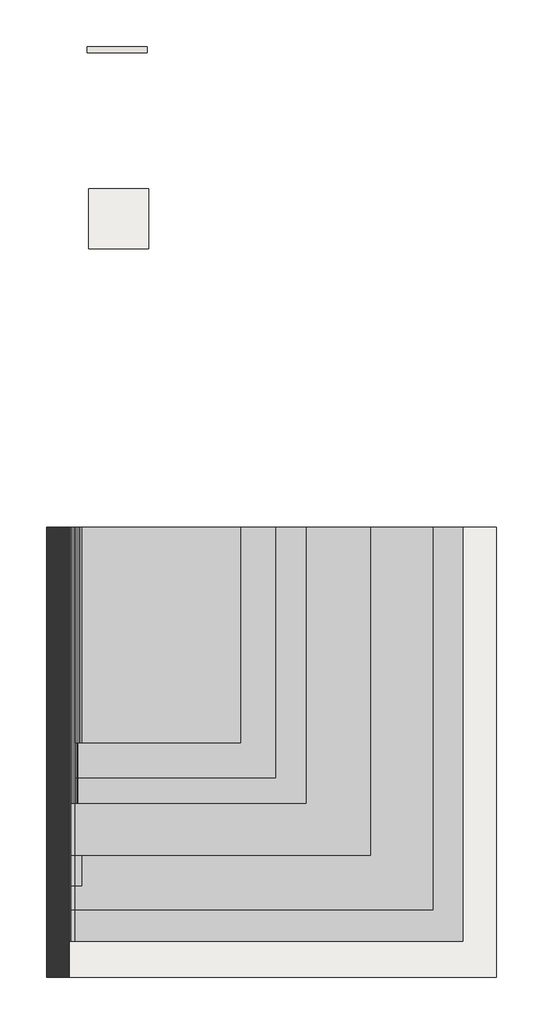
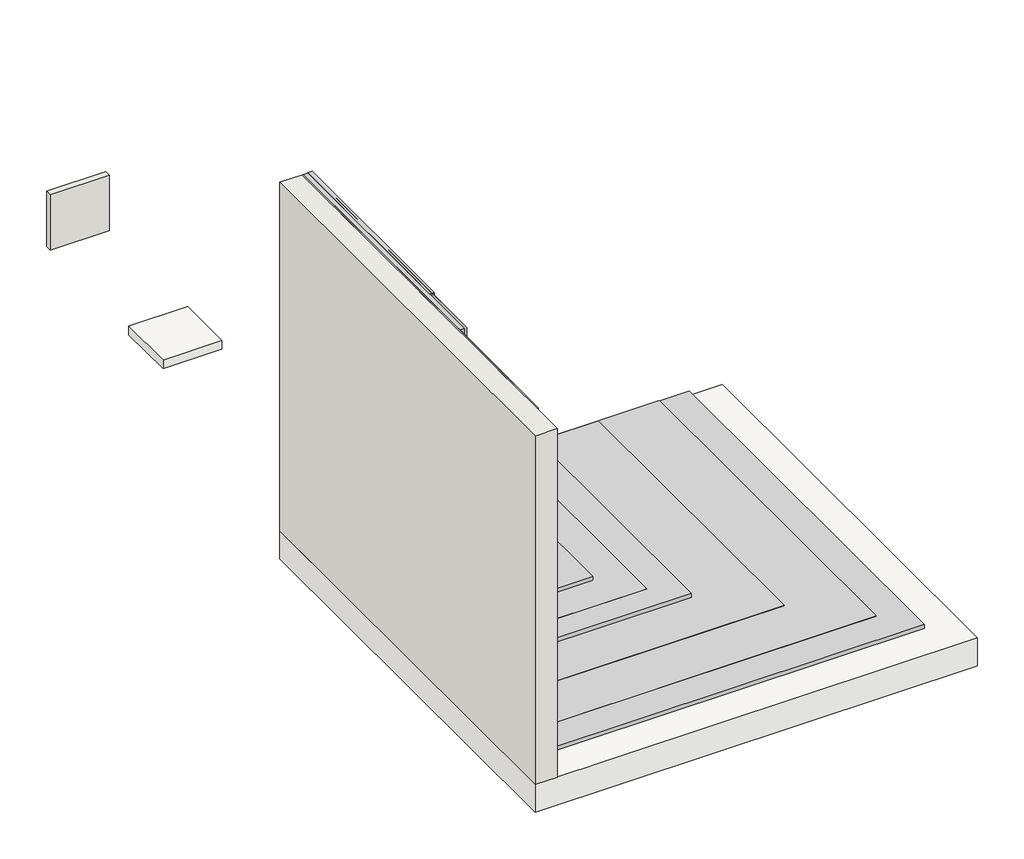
# One storey: 2 slabs, 2 walls, 1 proxy.
"""IFC4 building model written with IfcOpenShell, lengths in millimetres."""

from ifc_helpers import new_model, si_unit, frame, origin, place, context, project, spatial, polyline, outline, extrude, transform, mapped, element, save
from components import generic_models_5e391535

model = new_model("IFC4")

# Units and contexts
model_context = context("Model", 3, world=origin())
ifc_project = project(units=[si_unit("LENGTHUNIT", "METRE", prefix="MILLI")], contexts=[model_context])

# Site, building, storey
site = spatial("IfcSite", under=ifc_project)
building = spatial("IfcBuilding", under=site)
storey = spatial("IfcBuildingStorey", under=building, Name="ARQ Térreo", Elevation=-2.523798)

# Proxy
placement = place(None, origin())
generic_models_shape = generic_models_5e391535(model_context)
element("IfcBuildingElementProxy", 1, Name="IMPER:IMPER:433934 : IMPER:IMPER:433934", ObjectType="IMPER:IMPER:433934 : IMPER:IMPER:433934", at=placement, inside=storey, context=model_context, shape_type="MappedRepresentation", body=[
    mapped(generic_models_shape, transform((0.0, 0.0, 0.0), x_axis=(1.0, 0.0, 0.0), y_axis=(0.0, 1.0, 0.0), z_axis=(0.0, 0.0, 1.0))),
])

# Slabs
element("IfcSlab", 2, ObjectType="IMPH_VPECO", at=placement, inside=storey, context=model_context, shape_type="SweptSolid", body=[
    extrude(outline(polyline([(-220.2044385, 2402.60538), (179.7955615, 2402.60538), (179.7955615, 2002.60538), (-220.2044385, 2002.60538), (-220.2044385, 2402.60538)])), frame((0.0, 0.0, -64.523798), z_axis=(0.0, 0.0, 1.0), x_axis=(1.0, 0.0, 0.0)), (0.0, 0.0, 1.0), 62.0),
])
element("IfcSlab", 3, ObjectType="Piso:LAJE CONCRETO", at=placement, inside=storey, context=model_context, shape_type="SweptSolid", body=[
    extrude(outline(polyline([(-501.9704105, 145.8700195), (2498.0295895, 145.8700195), (2498.0295895, -2854.1299805), (-501.9704105, -2854.1299805), (-501.9704105, 145.8700195)])), frame((0.0, 0.0, -202.523798), z_axis=(0.0, 0.0, 1.0), x_axis=(1.0, 0.0, 0.0)), (0.0, 0.0, 1.0), 200.0),
])

# Walls
element("IfcWall", 4, ObjectType="Parede básica:Parede Concreto", at=placement, inside=storey, context=model_context, shape_type="SweptSolid", body=[
    extrude(outline(polyline([(-501.9704105, -2854.1299805), (-501.9704105, 145.8700195), (-351.9704105, 145.8700195), (-351.9704105, -2854.1299805), (-501.9704105, -2854.1299805)])), frame((0.0, 0.0, -2.523798), z_axis=(0.0, 0.0, 1.0), x_axis=(1.0, 0.0, 0.0)), (0.0, 0.0, 1.0), 2500.0),
])
element("IfcWall", 5, ObjectType="IMPV_VPECO", at=placement, inside=storey, context=model_context, shape_type="SweptSolid", body=[
    extrude(outline(polyline([(168.0841892, 3307.991607), (-231.9158108, 3307.991607), (-231.9158108, 3349.991607), (168.0841892, 3349.991607), (168.0841892, 3307.991607)])), frame((0.0, 0.0, -2.523798), z_axis=(0.0, 0.0, 1.0), x_axis=(1.0, 0.0, 0.0)), (0.0, 0.0, 1.0), 400.0),
])

save(model, "model.ifc")
